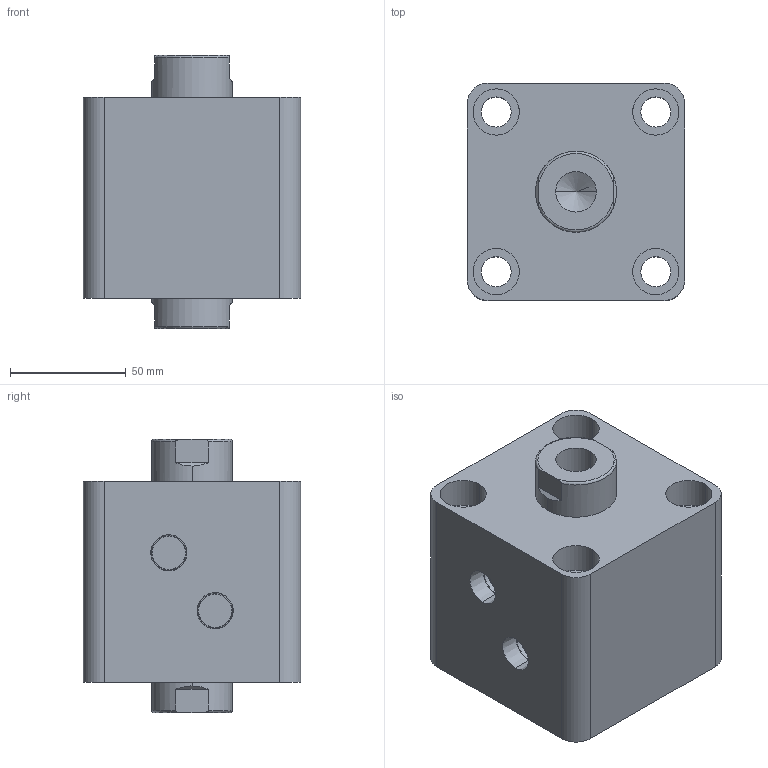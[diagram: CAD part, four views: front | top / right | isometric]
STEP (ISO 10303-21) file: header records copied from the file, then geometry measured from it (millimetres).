
FILE_DESCRIPTION (( 'STEP AP203' ), '1' );
FILE_NAME ('HTB-SW63-5N.STEP', '2019-10-07T09:29:22', ( '微软用户' ), ( '微软中国' ), 'SwSTEP 2.0', 'SolidWorks 2012', '' );
FILE_SCHEMA (( 'CONFIG_CONTROL_DESIGN' ));
Length unit declared in the file: millimetre
Products named in the file (3): HTB-SW63-5N; HTB-SW63-5N活塞杆; HTB-SW63-5掛极
Assembly tree (2 placements, depth 2):
  HTB-SW63-5N
    HTB-SW63-5掛极
    HTB-SW63-5N活塞杆
Bounding box: 94 x 94 x 118 mm (x, y, z)
Volume: 701867 mm3; surface area: 102305.5 mm2
Topology: 2 solids, 2 shells, 100 faces, 228 edges, 146 vertices
Faces by surface type: cylinder 48, plane 32, torus 12, cone 8
Entity records: 3253 total; most frequent: CARTESIAN_POINT 611, DIRECTION 542, ORIENTED_EDGE 448, AXIS2_PLACEMENT_3D 229, EDGE_CURVE 224, VERTEX_POINT 146, EDGE_LOOP 128, CIRCLE 124
